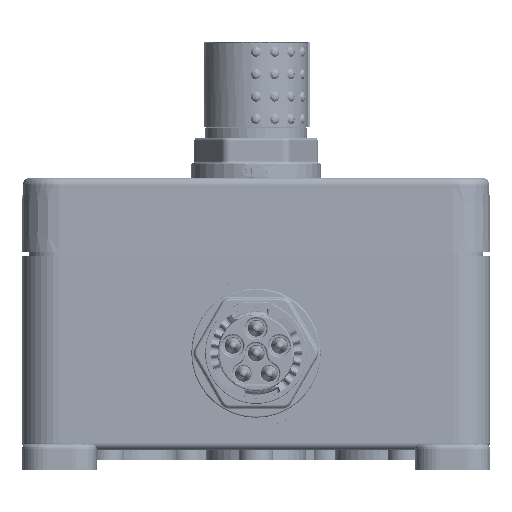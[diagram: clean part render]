
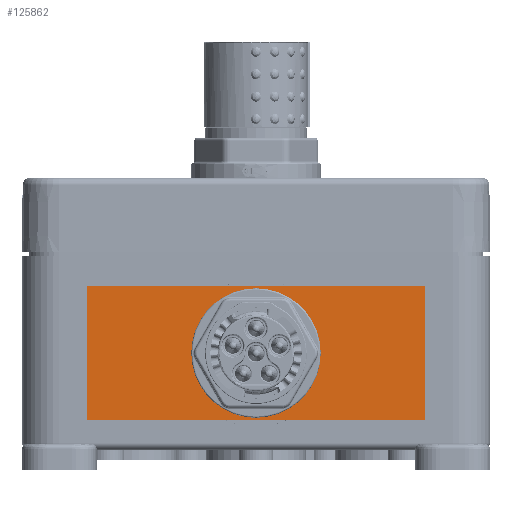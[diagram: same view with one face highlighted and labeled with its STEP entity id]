
A CAD part, front view. The second image highlights one B-rep face of the part: STEP entity #125862.
In plain terms, the highlighted planar face has unit normal (0, -1, 0).
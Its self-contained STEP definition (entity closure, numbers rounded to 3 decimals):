
#6569 = EDGE_CURVE ( 'NONE', #166768, #65004, #331455, .T. ) ;
#11268 = VERTEX_POINT ( 'NONE', #177598 ) ;
#15035 = EDGE_CURVE ( 'NONE', #239264, #166768, #37124, .T. ) ;
#23096 = CARTESIAN_POINT ( 'NONE',  ( -34., -90., 34.5 ) ) ;
#23546 = DIRECTION ( 'NONE',  ( 0., 0., -1. ) ) ;
#24715 = VERTEX_POINT ( 'NONE', #35894 ) ;
#25188 = FACE_OUTER_BOUND ( 'NONE', #126331, .T. ) ;
#27122 = DIRECTION ( 'NONE',  ( 0., 1., 0. ) ) ;
#27398 = CARTESIAN_POINT ( 'NONE',  ( -33.5, -90., 35. ) ) ;
#29210 = VECTOR ( 'NONE', #308971, 1000. ) ;
#31684 = AXIS2_PLACEMENT_3D ( 'NONE', #85075, #217427, #239293 ) ;
#32960 = CARTESIAN_POINT ( 'NONE',  ( 33.5, -90., 8. ) ) ;
#34498 = CARTESIAN_POINT ( 'NONE',  ( -33.5, -90., 8.5 ) ) ;
#34636 = ORIENTED_EDGE ( 'NONE', *, *, #15035, .F. ) ;
#35894 = CARTESIAN_POINT ( 'NONE',  ( 34., -90., 8.5 ) ) ;
#36567 = ORIENTED_EDGE ( 'NONE', *, *, #104123, .F. ) ;
#37124 = LINE ( 'NONE', #139393, #223931 ) ;
#40413 = EDGE_LOOP ( 'NONE', ( #291056 ) ) ;
#41973 = CARTESIAN_POINT ( 'NONE',  ( 33.5, -90., 8. ) ) ;
#51580 = AXIS2_PLACEMENT_3D ( 'NONE', #303763, #27122, #149537 ) ;
#56938 = EDGE_CURVE ( 'NONE', #307686, #239264, #123987, .T. ) ;
#65004 = VERTEX_POINT ( 'NONE', #27398 ) ;
#72590 = ORIENTED_EDGE ( 'NONE', *, *, #6569, .F. ) ;
#72733 = ORIENTED_EDGE ( 'NONE', *, *, #197672, .F. ) ;
#73938 = ORIENTED_EDGE ( 'NONE', *, *, #144749, .F. ) ;
#75613 = ORIENTED_EDGE ( 'NONE', *, *, #224456, .F. ) ;
#77104 = DIRECTION ( 'NONE',  ( 0., -1., 0. ) ) ;
#85075 = CARTESIAN_POINT ( 'NONE',  ( -33.5, -90., 34.5 ) ) ;
#86518 = LINE ( 'NONE', #32960, #139704 ) ;
#91526 = CARTESIAN_POINT ( 'NONE',  ( -34., -90., 8.5 ) ) ;
#104123 = EDGE_CURVE ( 'NONE', #11268, #210239, #169295, .T. ) ;
#105887 = AXIS2_PLACEMENT_3D ( 'NONE', #269915, #321854, #115712 ) ;
#106460 = CARTESIAN_POINT ( 'NONE',  ( -33.5, -90., 8. ) ) ;
#110686 = VERTEX_POINT ( 'NONE', #41973 ) ;
#115712 = DIRECTION ( 'NONE',  ( 0., 0., -1. ) ) ;
#118035 = CARTESIAN_POINT ( 'NONE',  ( -33.5, -90., 35. ) ) ;
#123987 = CIRCLE ( 'NONE', #279304, 0.5 ) ;
#124614 = DIRECTION ( 'NONE',  ( 1., 0., 0. ) ) ;
#124618 = CARTESIAN_POINT ( 'NONE',  ( 34., -90., 34.5 ) ) ;
#125862 = ADVANCED_FACE ( 'NONE', ( #256452, #25188 ), #181038, .T. ) ;
#126297 = CARTESIAN_POINT ( 'NONE',  ( 34., -90., 34.5 ) ) ;
#126331 = EDGE_LOOP ( 'NONE', ( #260418, #72733, #75613, #178013, #36567, #73938, #72590, #34636 ) ) ;
#138396 = DIRECTION ( 'NONE',  ( 1., 0., 0. ) ) ;
#139393 = CARTESIAN_POINT ( 'NONE',  ( -34., -90., 8.5 ) ) ;
#139704 = VECTOR ( 'NONE', #267546, 1000. ) ;
#141435 = AXIS2_PLACEMENT_3D ( 'NONE', #292838, #212373, #317932 ) ;
#144749 = EDGE_CURVE ( 'NONE', #65004, #11268, #303968, .T. ) ;
#149537 = DIRECTION ( 'NONE',  ( 1., 0., 0. ) ) ;
#166768 = VERTEX_POINT ( 'NONE', #23096 ) ;
#169295 = CIRCLE ( 'NONE', #51580, 0.5 ) ;
#177598 = CARTESIAN_POINT ( 'NONE',  ( 33.5, -90., 35. ) ) ;
#178013 = ORIENTED_EDGE ( 'NONE', *, *, #319165, .F. ) ;
#181038 = PLANE ( 'NONE',  #230895 ) ;
#197672 = EDGE_CURVE ( 'NONE', #110686, #307686, #86518, .T. ) ;
#201188 = CARTESIAN_POINT ( 'NONE',  ( -47., -90., 0. ) ) ;
#207576 = CIRCLE ( 'NONE', #105887, 10. ) ;
#210239 = VERTEX_POINT ( 'NONE', #124618 ) ;
#212373 = DIRECTION ( 'NONE',  ( 0., 1., 0. ) ) ;
#217427 = DIRECTION ( 'NONE',  ( 0., 1., 0. ) ) ;
#223931 = VECTOR ( 'NONE', #241618, 1000. ) ;
#224456 = EDGE_CURVE ( 'NONE', #24715, #110686, #318037, .T. ) ;
#230895 = AXIS2_PLACEMENT_3D ( 'NONE', #201188, #77104, #23546 ) ;
#239264 = VERTEX_POINT ( 'NONE', #91526 ) ;
#239293 = DIRECTION ( 'NONE',  ( 1., 0., 0. ) ) ;
#241316 = VERTEX_POINT ( 'NONE', #252432 ) ;
#241618 = DIRECTION ( 'NONE',  ( 0., 0., 1. ) ) ;
#252432 = CARTESIAN_POINT ( 'NONE',  ( 0., -90., 11.5 ) ) ;
#256452 = FACE_BOUND ( 'NONE', #40413, .T. ) ;
#260418 = ORIENTED_EDGE ( 'NONE', *, *, #56938, .F. ) ;
#265995 = VECTOR ( 'NONE', #124614, 1000. ) ;
#267546 = DIRECTION ( 'NONE',  ( -1., 0., 0. ) ) ;
#269915 = CARTESIAN_POINT ( 'NONE',  ( 0., -90., 21.5 ) ) ;
#279304 = AXIS2_PLACEMENT_3D ( 'NONE', #34498, #316085, #138396 ) ;
#291056 = ORIENTED_EDGE ( 'NONE', *, *, #322408, .F. ) ;
#292838 = CARTESIAN_POINT ( 'NONE',  ( 33.5, -90., 8.5 ) ) ;
#303763 = CARTESIAN_POINT ( 'NONE',  ( 33.5, -90., 34.5 ) ) ;
#303968 = LINE ( 'NONE', #118035, #265995 ) ;
#304000 = LINE ( 'NONE', #126297, #29210 ) ;
#307686 = VERTEX_POINT ( 'NONE', #106460 ) ;
#308971 = DIRECTION ( 'NONE',  ( 0., 0., -1. ) ) ;
#316085 = DIRECTION ( 'NONE',  ( 0., 1., 0. ) ) ;
#317932 = DIRECTION ( 'NONE',  ( 1., 0., 0. ) ) ;
#318037 = CIRCLE ( 'NONE', #141435, 0.5 ) ;
#319165 = EDGE_CURVE ( 'NONE', #210239, #24715, #304000, .T. ) ;
#321854 = DIRECTION ( 'NONE',  ( 0., -1., 0. ) ) ;
#322408 = EDGE_CURVE ( 'NONE', #241316, #241316, #207576, .T. ) ;
#331455 = CIRCLE ( 'NONE', #31684, 0.5 ) ;
